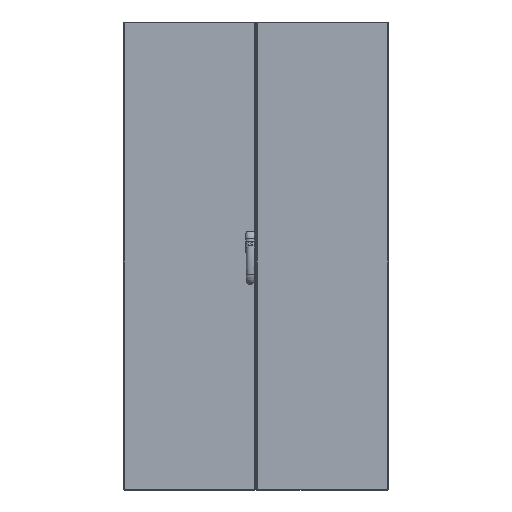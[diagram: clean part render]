
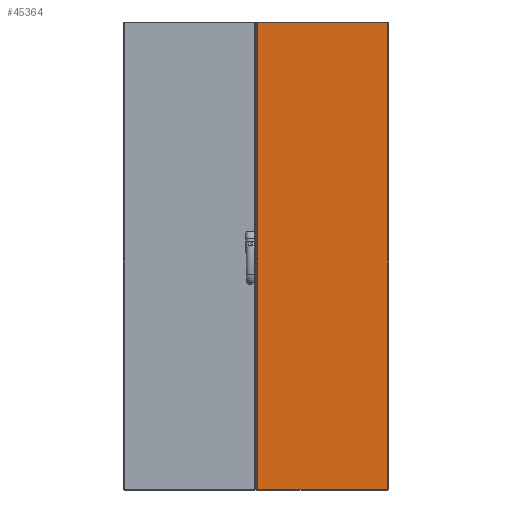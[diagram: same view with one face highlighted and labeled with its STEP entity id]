
A CAD part, top view. The second image highlights one B-rep face of the part: STEP entity #45364.
In plain terms, the highlighted planar face has unit normal (0, 0, 1).
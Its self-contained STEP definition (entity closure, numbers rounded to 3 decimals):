
#1042 = EDGE_LOOP ( 'NONE', ( #2792, #8862, #24758, #35796 ) ) ;
#1670 = CARTESIAN_POINT ( 'NONE',  ( 0., 1760., 19. ) ) ;
#2792 = ORIENTED_EDGE ( 'NONE', *, *, #43144, .T. ) ;
#3822 = VERTEX_POINT ( 'NONE', #25928 ) ;
#5492 = PLANE ( 'NONE',  #9071 ) ;
#6325 = CARTESIAN_POINT ( 'NONE',  ( 492., 1760., 19. ) ) ;
#6693 = CARTESIAN_POINT ( 'NONE',  ( 2.001, 3., 19. ) ) ;
#8862 = ORIENTED_EDGE ( 'NONE', *, *, #26554, .T. ) ;
#9053 = LINE ( 'NONE', #42806, #49653 ) ;
#9069 = FACE_OUTER_BOUND ( 'NONE', #1042, .T. ) ;
#9071 = AXIS2_PLACEMENT_3D ( 'NONE', #1670, #9347, #51871 ) ;
#9347 = DIRECTION ( 'NONE',  ( 0., 0., -1. ) ) ;
#10111 = VECTOR ( 'NONE', #51349, 1000. ) ;
#11966 = LINE ( 'NONE', #53145, #38685 ) ;
#14491 = LINE ( 'NONE', #18599, #46416 ) ;
#15259 = DIRECTION ( 'NONE',  ( -1., 0., 0. ) ) ;
#17551 = EDGE_CURVE ( 'NONE', #38018, #3822, #14491, .T. ) ;
#18223 = CARTESIAN_POINT ( 'NONE',  ( 492., 1757., 19. ) ) ;
#18599 = CARTESIAN_POINT ( 'NONE',  ( 0., 3., 19. ) ) ;
#22573 = VERTEX_POINT ( 'NONE', #45411 ) ;
#24758 = ORIENTED_EDGE ( 'NONE', *, *, #17551, .T. ) ;
#25928 = CARTESIAN_POINT ( 'NONE',  ( 492., 3., 19. ) ) ;
#26554 = EDGE_CURVE ( 'NONE', #22573, #38018, #9053, .T. ) ;
#35796 = ORIENTED_EDGE ( 'NONE', *, *, #36213, .T. ) ;
#36213 = EDGE_CURVE ( 'NONE', #3822, #51441, #47500, .T. ) ;
#38018 = VERTEX_POINT ( 'NONE', #6693 ) ;
#38685 = VECTOR ( 'NONE', #15259, 1000. ) ;
#42806 = CARTESIAN_POINT ( 'NONE',  ( 2.001, 3., 19. ) ) ;
#43144 = EDGE_CURVE ( 'NONE', #51441, #22573, #11966, .T. ) ;
#45364 = ADVANCED_FACE ( 'NONE', ( #9069 ), #5492, .F. ) ;
#45411 = CARTESIAN_POINT ( 'NONE',  ( 2.001, 1757., 19. ) ) ;
#46416 = VECTOR ( 'NONE', #52642, 1000. ) ;
#47500 = LINE ( 'NONE', #6325, #10111 ) ;
#48552 = DIRECTION ( 'NONE',  ( 0., -1., 0. ) ) ;
#49653 = VECTOR ( 'NONE', #48552, 1000. ) ;
#51349 = DIRECTION ( 'NONE',  ( 0., 1., 0. ) ) ;
#51441 = VERTEX_POINT ( 'NONE', #18223 ) ;
#51871 = DIRECTION ( 'NONE',  ( -1., 0., 0. ) ) ;
#52642 = DIRECTION ( 'NONE',  ( 1., 0., 0. ) ) ;
#53145 = CARTESIAN_POINT ( 'NONE',  ( 0., 1757., 19. ) ) ;
